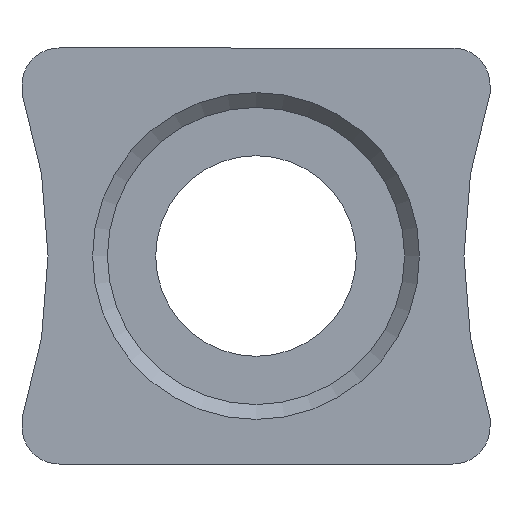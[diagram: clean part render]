
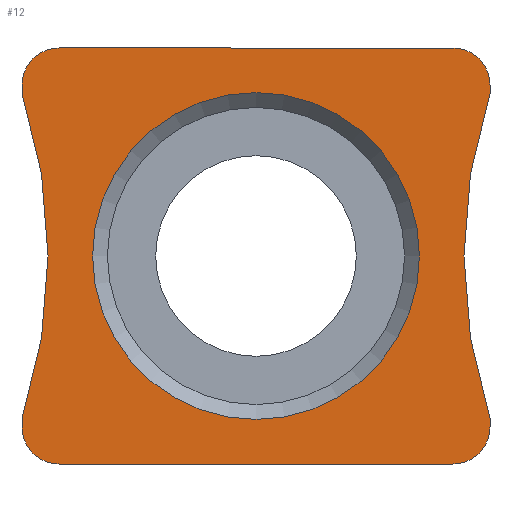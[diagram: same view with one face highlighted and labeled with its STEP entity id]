
A CAD part, left-side view. The second image highlights one B-rep face of the part: STEP entity #12.
In plain terms, the highlighted planar face has unit normal (-1, 0, 0).
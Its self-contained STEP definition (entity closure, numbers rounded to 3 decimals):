
#1 = VERTEX_POINT ( 'NONE', #547 ) ;
#8 = DIRECTION ( 'NONE',  ( 0., 0., 1. ) ) ;
#9 = AXIS2_PLACEMENT_3D ( 'NONE', #188, #870, #29 ) ;
#11 = CARTESIAN_POINT ( 'NONE',  ( 0., -3.15, -2.3 ) ) ;
#12 = ADVANCED_FACE ( 'NONE', ( #43, #125 ), #303, .F. ) ;
#14 = EDGE_LOOP ( 'NONE', ( #268, #337, #174, #425, #812, #763, #484, #757, #680, #421, #719, #121 ) ) ;
#20 = EDGE_CURVE ( 'NONE', #360, #247, #1069, .T. ) ;
#29 = DIRECTION ( 'NONE',  ( 0., 0., -1. ) ) ;
#37 = CARTESIAN_POINT ( 'NONE',  ( 0., -3.15, 2.8 ) ) ;
#43 = FACE_BOUND ( 'NONE', #69, .T. ) ;
#60 = VERTEX_POINT ( 'NONE', #482 ) ;
#67 = LINE ( 'NONE', #224, #993 ) ;
#68 = CARTESIAN_POINT ( 'NONE',  ( 0., 3.15, 2.186 ) ) ;
#69 = EDGE_LOOP ( 'NONE', ( #855 ) ) ;
#83 = CARTESIAN_POINT ( 'NONE',  ( 0., 3.15, 2.8 ) ) ;
#85 = LINE ( 'NONE', #756, #916 ) ;
#90 = DIRECTION ( 'NONE',  ( -1., 0., 0. ) ) ;
#94 = CARTESIAN_POINT ( 'NONE',  ( 0., 3.15, -2.186 ) ) ;
#103 = CARTESIAN_POINT ( 'NONE',  ( 0., -2.65, -2.8 ) ) ;
#121 = ORIENTED_EDGE ( 'NONE', *, *, #296, .F. ) ;
#125 = FACE_OUTER_BOUND ( 'NONE', #14, .T. ) ;
#132 = CARTESIAN_POINT ( 'NONE',  ( 0., -2.65, 2.8 ) ) ;
#145 = DIRECTION ( 'NONE',  ( 0., 0., 1. ) ) ;
#168 = AXIS2_PLACEMENT_3D ( 'NONE', #875, #1051, #959 ) ;
#173 = EDGE_CURVE ( 'NONE', #1016, #980, #220, .T. ) ;
#174 = ORIENTED_EDGE ( 'NONE', *, *, #936, .F. ) ;
#188 = CARTESIAN_POINT ( 'NONE',  ( 0., 2.65, -2.3 ) ) ;
#200 = VERTEX_POINT ( 'NONE', #68 ) ;
#207 = CIRCLE ( 'NONE', #333, 7. ) ;
#208 = CIRCLE ( 'NONE', #226, 0.5 ) ;
#220 = LINE ( 'NONE', #725, #332 ) ;
#224 = CARTESIAN_POINT ( 'NONE',  ( 0., 3.15, 2.8 ) ) ;
#226 = AXIS2_PLACEMENT_3D ( 'NONE', #927, #913, #840 ) ;
#229 = CARTESIAN_POINT ( 'NONE',  ( 0., 9.8, 0. ) ) ;
#243 = AXIS2_PLACEMENT_3D ( 'NONE', #612, #711, #604 ) ;
#247 = VERTEX_POINT ( 'NONE', #94 ) ;
#254 = DIRECTION ( 'NONE',  ( 0., 1., 0. ) ) ;
#268 = ORIENTED_EDGE ( 'NONE', *, *, #417, .F. ) ;
#288 = VERTEX_POINT ( 'NONE', #1082 ) ;
#296 = EDGE_CURVE ( 'NONE', #1, #1016, #1029, .T. ) ;
#303 = PLANE ( 'NONE',  #675 ) ;
#311 = DIRECTION ( 'NONE',  ( 0., 0., -1. ) ) ;
#331 = EDGE_CURVE ( 'NONE', #360, #288, #405, .T. ) ;
#332 = VECTOR ( 'NONE', #1057, 1000. ) ;
#333 = AXIS2_PLACEMENT_3D ( 'NONE', #229, #982, #145 ) ;
#337 = ORIENTED_EDGE ( 'NONE', *, *, #758, .T. ) ;
#338 = DIRECTION ( 'NONE',  ( 0., 0., -1. ) ) ;
#360 = VERTEX_POINT ( 'NONE', #1040 ) ;
#375 = DIRECTION ( 'NONE',  ( 0., 0., -1. ) ) ;
#394 = EDGE_CURVE ( 'NONE', #60, #60, #695, .T. ) ;
#405 = CIRCLE ( 'NONE', #9, 0.5 ) ;
#416 = DIRECTION ( 'NONE',  ( 0., -1., 0. ) ) ;
#417 = EDGE_CURVE ( 'NONE', #549, #1, #790, .T. ) ;
#421 = ORIENTED_EDGE ( 'NONE', *, *, #618, .T. ) ;
#425 = ORIENTED_EDGE ( 'NONE', *, *, #673, .T. ) ;
#435 = VECTOR ( 'NONE', #416, 1000. ) ;
#436 = CARTESIAN_POINT ( 'NONE',  ( 0., -3.15, -2.186 ) ) ;
#443 = VERTEX_POINT ( 'NONE', #132 ) ;
#482 = CARTESIAN_POINT ( 'NONE',  ( 0., 0., -2.2 ) ) ;
#484 = ORIENTED_EDGE ( 'NONE', *, *, #20, .F. ) ;
#491 = AXIS2_PLACEMENT_3D ( 'NONE', #1011, #90, #338 ) ;
#498 = CARTESIAN_POINT ( 'NONE',  ( 0., 2.65, 2.8 ) ) ;
#533 = EDGE_CURVE ( 'NONE', #247, #200, #207, .T. ) ;
#547 = CARTESIAN_POINT ( 'NONE',  ( 0., -3.15, 2.186 ) ) ;
#549 = VERTEX_POINT ( 'NONE', #824 ) ;
#604 = DIRECTION ( 'NONE',  ( 0., 0., -1. ) ) ;
#608 = VERTEX_POINT ( 'NONE', #498 ) ;
#612 = CARTESIAN_POINT ( 'NONE',  ( 0., 0., 0. ) ) ;
#618 = EDGE_CURVE ( 'NONE', #791, #980, #884, .T. ) ;
#639 = DIRECTION ( 'NONE',  ( 1., 0., 0. ) ) ;
#673 = EDGE_CURVE ( 'NONE', #608, #912, #208, .T. ) ;
#675 = AXIS2_PLACEMENT_3D ( 'NONE', #715, #639, #311 ) ;
#680 = ORIENTED_EDGE ( 'NONE', *, *, #684, .F. ) ;
#684 = EDGE_CURVE ( 'NONE', #791, #288, #85, .T. ) ;
#695 = CIRCLE ( 'NONE', #243, 2.2 ) ;
#711 = DIRECTION ( 'NONE',  ( 1., 0., 0. ) ) ;
#715 = CARTESIAN_POINT ( 'NONE',  ( 0., 0., 0. ) ) ;
#716 = AXIS2_PLACEMENT_3D ( 'NONE', #743, #1097, #8 ) ;
#718 = CIRCLE ( 'NONE', #168, 0.5 ) ;
#719 = ORIENTED_EDGE ( 'NONE', *, *, #173, .F. ) ;
#725 = CARTESIAN_POINT ( 'NONE',  ( 0., -3.15, 2.8 ) ) ;
#743 = CARTESIAN_POINT ( 'NONE',  ( 0., -9.8, 0. ) ) ;
#756 = CARTESIAN_POINT ( 'NONE',  ( 0., 3.15, -2.8 ) ) ;
#757 = ORIENTED_EDGE ( 'NONE', *, *, #331, .T. ) ;
#758 = EDGE_CURVE ( 'NONE', #549, #443, #718, .T. ) ;
#763 = ORIENTED_EDGE ( 'NONE', *, *, #533, .F. ) ;
#790 = LINE ( 'NONE', #37, #860 ) ;
#791 = VERTEX_POINT ( 'NONE', #103 ) ;
#812 = ORIENTED_EDGE ( 'NONE', *, *, #1102, .F. ) ;
#824 = CARTESIAN_POINT ( 'NONE',  ( 0., -3.15, 2.3 ) ) ;
#840 = DIRECTION ( 'NONE',  ( 0., 0., -1. ) ) ;
#855 = ORIENTED_EDGE ( 'NONE', *, *, #394, .T. ) ;
#860 = VECTOR ( 'NONE', #375, 1000. ) ;
#870 = DIRECTION ( 'NONE',  ( -1., 0., 0. ) ) ;
#875 = CARTESIAN_POINT ( 'NONE',  ( 0., -2.65, 2.3 ) ) ;
#884 = CIRCLE ( 'NONE', #491, 0.5 ) ;
#912 = VERTEX_POINT ( 'NONE', #1019 ) ;
#913 = DIRECTION ( 'NONE',  ( -1., 0., 0. ) ) ;
#916 = VECTOR ( 'NONE', #254, 1000. ) ;
#927 = CARTESIAN_POINT ( 'NONE',  ( 0., 2.65, 2.3 ) ) ;
#929 = LINE ( 'NONE', #83, #435 ) ;
#936 = EDGE_CURVE ( 'NONE', #608, #443, #929, .T. ) ;
#953 = VECTOR ( 'NONE', #1075, 1000. ) ;
#959 = DIRECTION ( 'NONE',  ( 0., 0., -1. ) ) ;
#980 = VERTEX_POINT ( 'NONE', #11 ) ;
#981 = CARTESIAN_POINT ( 'NONE',  ( 0., 3.15, 2.8 ) ) ;
#982 = DIRECTION ( 'NONE',  ( -1., 0., 0. ) ) ;
#993 = VECTOR ( 'NONE', #1073, 1000. ) ;
#1011 = CARTESIAN_POINT ( 'NONE',  ( 0., -2.65, -2.3 ) ) ;
#1016 = VERTEX_POINT ( 'NONE', #436 ) ;
#1019 = CARTESIAN_POINT ( 'NONE',  ( 0., 3.15, 2.3 ) ) ;
#1029 = CIRCLE ( 'NONE', #716, 7. ) ;
#1040 = CARTESIAN_POINT ( 'NONE',  ( 0., 3.15, -2.3 ) ) ;
#1051 = DIRECTION ( 'NONE',  ( -1., 0., 0. ) ) ;
#1057 = DIRECTION ( 'NONE',  ( 0., 0., -1. ) ) ;
#1069 = LINE ( 'NONE', #981, #953 ) ;
#1073 = DIRECTION ( 'NONE',  ( 0., 0., 1. ) ) ;
#1075 = DIRECTION ( 'NONE',  ( 0., 0., 1. ) ) ;
#1082 = CARTESIAN_POINT ( 'NONE',  ( 0., 2.65, -2.8 ) ) ;
#1097 = DIRECTION ( 'NONE',  ( -1., 0., 0. ) ) ;
#1102 = EDGE_CURVE ( 'NONE', #200, #912, #67, .T. ) ;
